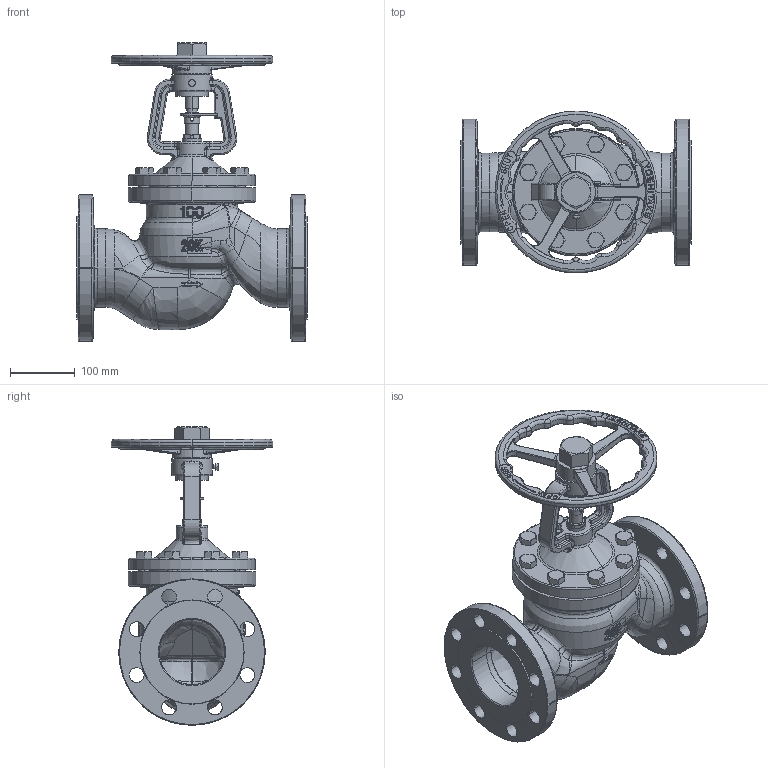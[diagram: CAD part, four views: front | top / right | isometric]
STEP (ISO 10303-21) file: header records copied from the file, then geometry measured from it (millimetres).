
FILE_DESCRIPTION( (''), '2;1');
FILE_NAME ('PC1027.9568.BSV-20F 100A_28484.stp','2025-07-28T09:50:09',(''),(''),'spGate 19.8.4 (****-****-****-****)','','');
FILE_SCHEMA (('AUTOMOTIVE_DESIGN'));
Length unit declared in the file: millimetre
Products named in the file (12): Assembly; ボンネット100A; スリーブワッシャー 100A; スリーブ100A; グランドナット100A; ストッパー100A; 弁棒100A; ハンドル100A φ250; ハンドルナット 100A; CP_''_JIS B 1180 呼び径六角ボルト''_17166; CP_''_JIS B 1180 呼び径六角ボ''_(1)_17166; 本体20K 100A
Assembly tree (19 placements, depth 2):
  Assembly
    ボンネット100A
    スリーブワッシャー 100A  x2
    スリーブ100A
    グランドナット100A
    ストッパー100A
    弁棒100A
    ハンドル100A φ250
    ハンドルナット 100A
    CP_''_JIS B 1180 呼び径六角ボルト''_17166  x8
    CP_''_JIS B 1180 呼び径六角ボ''_(1)_17166
    本体20K 100A
Bounding box: 356 x 250 x 461 mm (x, y, z)
Volume: 4518523.6 mm3; surface area: 824662.5 mm2
Topology: 19 solids, 19 shells, 2249 faces, 5540 edges, 3289 vertices
Faces by surface type: bspline 1162, cylinder 583, plane 490, sphere 14
Entity records: 171042 total; most frequent: CARTESIAN_POINT 91907, ORIENTED_EDGE 10158, COLOUR_RGB 7165, PRESENTATION_STYLE_ASSIGNMENT 7165, STYLED_ITEM 7165, DIRECTION 5509, EDGE_CURVE 5079, DRAUGHTING_PRE_DEFINED_CURVE_FONT 5079
